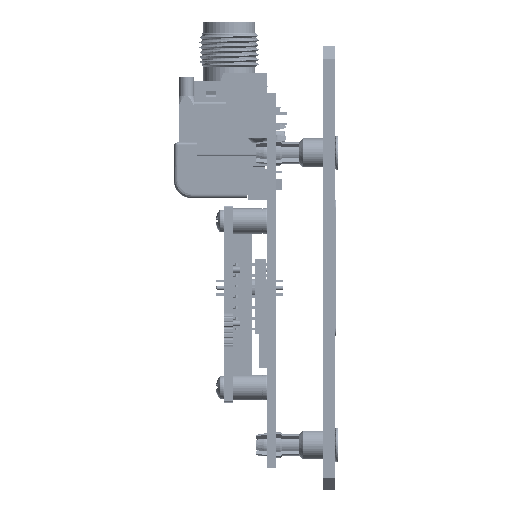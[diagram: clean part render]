
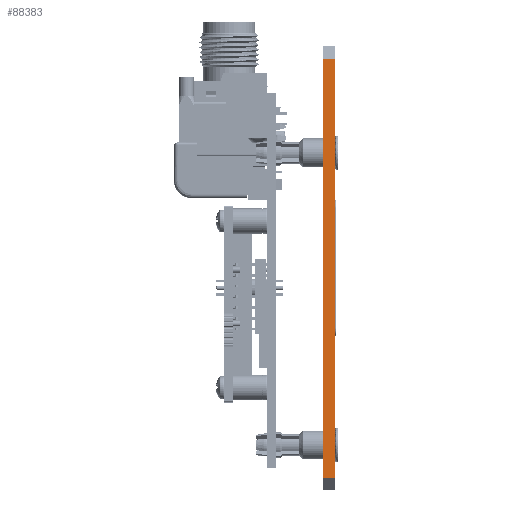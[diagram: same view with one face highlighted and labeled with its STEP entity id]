
A CAD part, left-side view. The second image highlights one B-rep face of the part: STEP entity #88383.
In plain terms, the highlighted planar face has unit normal (-1, 0, 0) as drawn and (0, 1, 0) by its records, which use the part's own axes.
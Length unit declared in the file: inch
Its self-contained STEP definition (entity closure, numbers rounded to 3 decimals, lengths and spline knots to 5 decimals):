
#798 = ORIENTED_EDGE ( 'NONE', *, *, #54379, .T. ) ;
#5886 = CARTESIAN_POINT ( 'NONE',  ( -1.997, 3.48067, 0.0907 ) ) ;
#8348 = DIRECTION ( 'NONE',  ( -1., 0., 0. ) ) ;
#13159 = CARTESIAN_POINT ( 'NONE',  ( -5.067, 3.48067, 0.0907 ) ) ;
#16494 = DIRECTION ( 'NONE',  ( 0., -1., 0. ) ) ;
#17487 = DIRECTION ( 'NONE',  ( 0., 0., -1. ) ) ;
#21250 = EDGE_LOOP ( 'NONE', ( #798, #54148, #75727, #33051 ) ) ;
#24872 = VERTEX_POINT ( 'NONE', #5886 ) ;
#27384 = FACE_OUTER_BOUND ( 'NONE', #21250, .T. ) ;
#33051 = ORIENTED_EDGE ( 'NONE', *, *, #88468, .T. ) ;
#34610 = EDGE_CURVE ( 'NONE', #133934, #40580, #114175, .T. ) ;
#37510 = CARTESIAN_POINT ( 'NONE',  ( -5.067, 3.48067, 0. ) ) ;
#38915 = CARTESIAN_POINT ( 'NONE',  ( -1.907, 3.48067, 0.0907 ) ) ;
#40580 = VERTEX_POINT ( 'NONE', #109823 ) ;
#46734 = EDGE_CURVE ( 'NONE', #24872, #40580, #128590, .T. ) ;
#48917 = LINE ( 'NONE', #148101, #107412 ) ;
#54148 = ORIENTED_EDGE ( 'NONE', *, *, #34610, .T. ) ;
#54379 = EDGE_CURVE ( 'NONE', #88199, #133934, #48917, .T. ) ;
#72470 = AXIS2_PLACEMENT_3D ( 'NONE', #38915, #16494, #98159 ) ;
#75677 = CARTESIAN_POINT ( 'NONE',  ( -1.997, 3.48067, 0.0907 ) ) ;
#75727 = ORIENTED_EDGE ( 'NONE', *, *, #46734, .F. ) ;
#76419 = CARTESIAN_POINT ( 'NONE',  ( -1.907, 3.48067, 0.0907 ) ) ;
#82203 = VECTOR ( 'NONE', #17487, 39.37008 ) ;
#82406 = CARTESIAN_POINT ( 'NONE',  ( -1.997, 3.48067, 0. ) ) ;
#83089 = DIRECTION ( 'NONE',  ( 0., 0., 1. ) ) ;
#88199 = VERTEX_POINT ( 'NONE', #82406 ) ;
#88383 = ADVANCED_FACE ( 'NONE', ( #27384 ), #144532, .F. ) ;
#88468 = EDGE_CURVE ( 'NONE', #24872, #88199, #113225, .T. ) ;
#98159 = DIRECTION ( 'NONE',  ( 0., 0., -1. ) ) ;
#107412 = VECTOR ( 'NONE', #8348, 39.37008 ) ;
#109823 = CARTESIAN_POINT ( 'NONE',  ( -5.067, 3.48067, 0.0907 ) ) ;
#110578 = VECTOR ( 'NONE', #83089, 39.37008 ) ;
#113225 = LINE ( 'NONE', #75677, #82203 ) ;
#114175 = LINE ( 'NONE', #13159, #110578 ) ;
#124930 = VECTOR ( 'NONE', #135038, 39.37008 ) ;
#128590 = LINE ( 'NONE', #76419, #124930 ) ;
#133934 = VERTEX_POINT ( 'NONE', #37510 ) ;
#135038 = DIRECTION ( 'NONE',  ( -1., 0., 0. ) ) ;
#144532 = PLANE ( 'NONE',  #72470 ) ;
#148101 = CARTESIAN_POINT ( 'NONE',  ( -1.907, 3.48067, 0. ) ) ;
